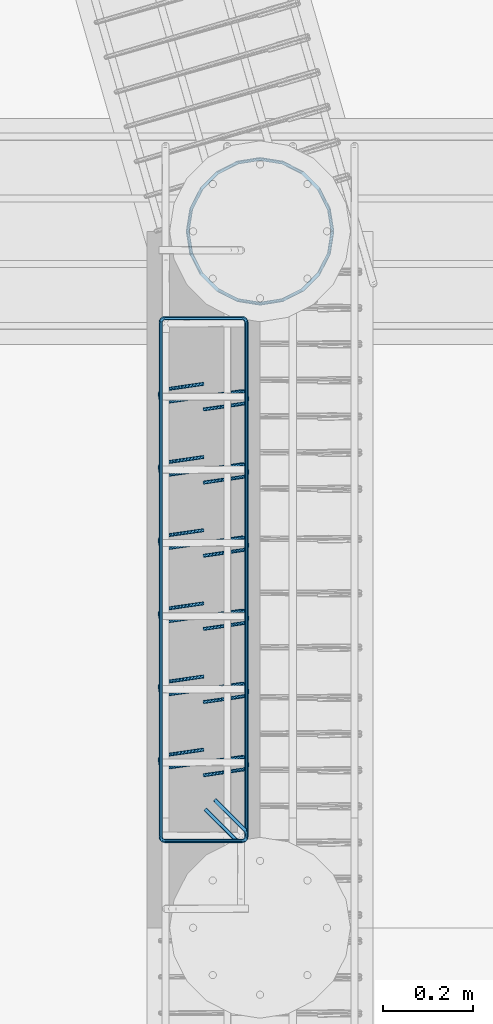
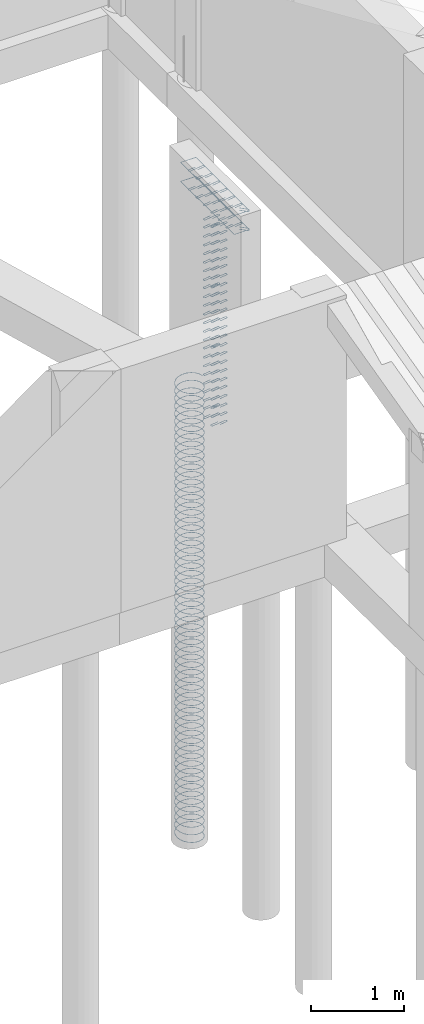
# One storey, part 6 of 13: 3 reinforcing bars.
"""IFC4 building model written with IfcOpenShell, lengths in metres."""

from ifc_helpers import new_model, entity, si_unit, origin_with_axes, place, context, project, spatial, source, transform, mapped, element, save


model = new_model("IFC4")

# Units and contexts
model_context = context("Model", 3, precision=1e-05, world=origin_with_axes())
ifc_project = project(units=[si_unit("LENGTHUNIT", "METRE"), si_unit("AREAUNIT", "SQUARE_METRE"), si_unit("VOLUMEUNIT", "CUBIC_METRE"), si_unit("MASSUNIT", "GRAM", prefix="KILO"), si_unit("TIMEUNIT", "SECOND"), si_unit("PLANEANGLEUNIT", "RADIAN"), si_unit("SOLIDANGLEUNIT", "STERADIAN"), si_unit("THERMODYNAMICTEMPERATUREUNIT", "DEGREE_CELSIUS")], contexts=[model_context])

# Site, building, storey
placement_1 = place(None, origin_with_axes())
site = spatial("IfcSite", under=ifc_project, at=placement_1, Name="Italia", CompositionType="ELEMENT")
building = spatial("IfcBuilding", under=site, at=placement_1, Name="Villa", CompositionType="ELEMENT")
storey = spatial("IfcBuildingStorey", under=building, at=placement_1, Name="Storey 0", CompositionType="ELEMENT", Elevation=0.0)

# Reinforcing bars
shared_shape_1 = source(origin_with_axes(), model_context, "Body", "AdvancedSweptSolid", [
    entity("IfcSweptDiskSolid", entity("IfcIndexedPolyCurve", entity("IfcCartesianPointList3D", [[14.8759, 4.71754, 0.021], [14.7869, 4.70466, 0.021], [14.7832, 4.70336, 0.021], [14.7803, 4.70075, 0.021], [14.7786, 4.69723, 0.021], [14.7784, 4.69333, 0.021], [14.7795, 4.68541, 0.021], [14.7808, 4.68174, 0.021], [14.7835, 4.67884, 0.021], [14.787, 4.67715, 0.021], [14.7909, 4.67695, 0.021], [14.9591, 4.70127, 0.021], [14.963, 4.70107, 0.021], [14.9665, 4.69939, 0.021], [14.9692, 4.69649, 0.021], [14.9705, 4.69281, 0.021], [14.9716, 4.68489, 0.021], [14.9714, 4.68099, 0.021], [14.9697, 4.67747, 0.021], [14.9668, 4.67486, 0.021], [14.9631, 4.67356, 0.021], [14.8741, 4.66068, 0.021]]), [entity("IfcLineIndex", [1, 2]), entity("IfcLineIndex", [2, 3]), entity("IfcLineIndex", [3, 4]), entity("IfcLineIndex", [4, 5]), entity("IfcLineIndex", [5, 6]), entity("IfcLineIndex", [6, 7]), entity("IfcLineIndex", [7, 8]), entity("IfcLineIndex", [8, 9]), entity("IfcLineIndex", [9, 10]), entity("IfcLineIndex", [10, 11]), entity("IfcLineIndex", [11, 12]), entity("IfcLineIndex", [12, 13]), entity("IfcLineIndex", [13, 14]), entity("IfcLineIndex", [14, 15]), entity("IfcLineIndex", [15, 16]), entity("IfcLineIndex", [16, 17]), entity("IfcLineIndex", [17, 18]), entity("IfcLineIndex", [18, 19]), entity("IfcLineIndex", [19, 20]), entity("IfcLineIndex", [20, 21]), entity("IfcLineIndex", [21, 22])], False), 0.004),
])
placement_2 = place(placement_1, origin_with_axes())
reinforcing_bar_1_placement = place(placement_2, origin_with_axes())
element("IfcReinforcingBar", 1, at=reinforcing_bar_1_placement, inside=storey, BarLength=0.428429, CrossSectionArea=5.0265e-05, NominalDiameter=0.008, context=model_context, shape_type="MappedRepresentation", body=[
    mapped(shared_shape_1, transform((0.0, 0.161778, 2.38304), x_axis=(1.0, 0.0, 0.0), y_axis=(0.0, 1.0, 0.0), z_axis=(0.0, 0.0, 1.0), scale=1.0)),
    mapped(shared_shape_1, transform((0.0, 0.0, 2.38304), x_axis=(1.0, 0.0, 0.0), y_axis=(0.0, 1.0, 0.0), z_axis=(0.0, 0.0, 1.0), scale=1.0)),
    mapped(shared_shape_1, transform((0.0, 0.0, 2.26957), x_axis=(1.0, 0.0, 0.0), y_axis=(0.0, 1.0, 0.0), z_axis=(0.0, 0.0, 1.0), scale=1.0)),
    mapped(shared_shape_1, transform((0.0, 0.161778, 2.15609), x_axis=(1.0, 0.0, 0.0), y_axis=(0.0, 1.0, 0.0), z_axis=(0.0, 0.0, 1.0), scale=1.0)),
    mapped(shared_shape_1, transform((0.0, 0.0, 2.15609), x_axis=(1.0, 0.0, 0.0), y_axis=(0.0, 1.0, 0.0), z_axis=(0.0, 0.0, 1.0), scale=1.0)),
    mapped(shared_shape_1, transform((0.0, 0.161778, 2.50452), x_axis=(1.0, 0.0, 0.0), y_axis=(0.0, 1.0, 0.0), z_axis=(0.0, 0.0, 1.0), scale=1.0)),
    mapped(shared_shape_1, transform((0.0, 0.161778, 1.92913), x_axis=(1.0, 0.0, 0.0), y_axis=(0.0, 1.0, 0.0), z_axis=(0.0, 0.0, 1.0), scale=1.0)),
    mapped(shared_shape_1, transform((0.0, 0.0, 1.92913), x_axis=(1.0, 0.0, 0.0), y_axis=(0.0, 1.0, 0.0), z_axis=(0.0, 0.0, 1.0), scale=1.0)),
    mapped(shared_shape_1, transform((0.0, 0.161778, 2.26957), x_axis=(1.0, 0.0, 0.0), y_axis=(0.0, 1.0, 0.0), z_axis=(0.0, 0.0, 1.0), scale=1.0)),
    mapped(shared_shape_1, transform((0.0, 0.0, 1.70217), x_axis=(1.0, 0.0, 0.0), y_axis=(0.0, 1.0, 0.0), z_axis=(0.0, 0.0, 1.0), scale=1.0)),
    mapped(shared_shape_1, transform((0.0, 0.161778, 2.04261), x_axis=(1.0, 0.0, 0.0), y_axis=(0.0, 1.0, 0.0), z_axis=(0.0, 0.0, 1.0), scale=1.0)),
    mapped(shared_shape_1, transform((0.0, 0.0, 2.05061), x_axis=(1.0, 0.0, 0.0), y_axis=(0.0, 1.0, 0.0), z_axis=(0.0, 0.0, 1.0), scale=1.0)),
    mapped(shared_shape_1, transform((0.0, -0.323555, 3.046), x_axis=(1.0, 0.0, 0.0), y_axis=(0.0, 1.0, 0.0), z_axis=(0.0, 0.0, 1.0), scale=1.0)),
    mapped(shared_shape_1, transform((0.0, 0.0, 1.81565), x_axis=(1.0, 0.0, 0.0), y_axis=(0.0, 1.0, 0.0), z_axis=(0.0, 0.0, 1.0), scale=1.0)),
    mapped(shared_shape_1, transform((0.0, 0.161778, 1.81565), x_axis=(1.0, 0.0, 0.0), y_axis=(0.0, 1.0, 0.0), z_axis=(0.0, 0.0, 1.0), scale=1.0)),
    mapped(shared_shape_1, transform((0.0, 0.161778, 1.71017), x_axis=(1.0, 0.0, 0.0), y_axis=(0.0, 1.0, 0.0), z_axis=(0.0, 0.0, 1.0), scale=1.0)),
    mapped(shared_shape_1, transform((0.0, -0.161777, 3.046), x_axis=(1.0, 0.0, 0.0), y_axis=(0.0, 1.0, 0.0), z_axis=(0.0, 0.0, 1.0), scale=1.0)),
    mapped(shared_shape_1, transform((0.0, 0.323556, 3.046), x_axis=(1.0, 0.0, 0.0), y_axis=(0.0, 1.0, 0.0), z_axis=(0.0, 0.0, 1.0), scale=1.0)),
    mapped(shared_shape_1, transform((0.0, 0.0, 3.046), x_axis=(1.0, 0.0, 0.0), y_axis=(0.0, 1.0, 0.0), z_axis=(0.0, 0.0, 1.0), scale=1.0)),
    mapped(shared_shape_1, transform((0.0, 0.161778, 3.046), x_axis=(1.0, 0.0, 0.0), y_axis=(0.0, 1.0, 0.0), z_axis=(0.0, 0.0, 1.0), scale=1.0)),
    mapped(shared_shape_1, transform((0.0, 0.485333, 3.054), x_axis=(1.0, 0.0, 0.0), y_axis=(0.0, 1.0, 0.0), z_axis=(0.0, 0.0, 1.0), scale=1.0)),
    mapped(shared_shape_1, transform((0.0, -0.323555, 2.796), x_axis=(1.0, 0.0, 0.0), y_axis=(0.0, 1.0, 0.0), z_axis=(0.0, 0.0, 1.0), scale=1.0)),
    mapped(shared_shape_1, transform((0.0, 0.323556, 2.796), x_axis=(1.0, 0.0, 0.0), y_axis=(0.0, 1.0, 0.0), z_axis=(0.0, 0.0, 1.0), scale=1.0)),
    mapped(shared_shape_1, transform((0.0, 0.0, 2.796), x_axis=(1.0, 0.0, 0.0), y_axis=(0.0, 1.0, 0.0), z_axis=(0.0, 0.0, 1.0), scale=1.0)),
    mapped(shared_shape_1, transform((0.0, 0.485333, 2.804), x_axis=(1.0, 0.0, 0.0), y_axis=(0.0, 1.0, 0.0), z_axis=(0.0, 0.0, 1.0), scale=1.0)),
    mapped(shared_shape_1, transform((0.0, 0.0, 2.61), x_axis=(1.0, 0.0, 0.0), y_axis=(0.0, 1.0, 0.0), z_axis=(0.0, 0.0, 1.0), scale=1.0)),
    mapped(shared_shape_1, transform((0.0, -0.161777, 2.796), x_axis=(1.0, 0.0, 0.0), y_axis=(0.0, 1.0, 0.0), z_axis=(0.0, 0.0, 1.0), scale=1.0)),
    mapped(shared_shape_1, transform((0.0, 0.0, 0.794348), x_axis=(1.0, 0.0, 0.0), y_axis=(0.0, 1.0, 0.0), z_axis=(0.0, 0.0, 1.0), scale=1.0)),
    mapped(shared_shape_1, transform((0.0, 0.0, 0.68087), x_axis=(1.0, 0.0, 0.0), y_axis=(0.0, 1.0, 0.0), z_axis=(0.0, 0.0, 1.0), scale=1.0)),
    mapped(shared_shape_1, transform((0.0, 0.161778, 2.796), x_axis=(1.0, 0.0, 0.0), y_axis=(0.0, 1.0, 0.0), z_axis=(0.0, 0.0, 1.0), scale=1.0)),
    mapped(shared_shape_1, transform((0.0, 0.0, 0.567391), x_axis=(1.0, 0.0, 0.0), y_axis=(0.0, 1.0, 0.0), z_axis=(0.0, 0.0, 1.0), scale=1.0)),
    mapped(shared_shape_1, transform((0.0, 0.161778, 2.61), x_axis=(1.0, 0.0, 0.0), y_axis=(0.0, 1.0, 0.0), z_axis=(0.0, 0.0, 1.0), scale=1.0)),
    mapped(shared_shape_1, transform((0.0, 0.0, 2.49652), x_axis=(1.0, 0.0, 0.0), y_axis=(0.0, 1.0, 0.0), z_axis=(0.0, 0.0, 1.0), scale=1.0)),
    mapped(shared_shape_1, transform((0.0, 0.0, 0.340435), x_axis=(1.0, 0.0, 0.0), y_axis=(0.0, 1.0, 0.0), z_axis=(0.0, 0.0, 1.0), scale=1.0)),
    mapped(shared_shape_1, transform((0.0, 0.161778, 0.68087), x_axis=(1.0, 0.0, 0.0), y_axis=(0.0, 1.0, 0.0), z_axis=(0.0, 0.0, 1.0), scale=1.0)),
    mapped(shared_shape_1, transform((0.0, 0.161778, 0.567391), x_axis=(1.0, 0.0, 0.0), y_axis=(0.0, 1.0, 0.0), z_axis=(0.0, 0.0, 1.0), scale=1.0)),
    mapped(shared_shape_1, transform((0.0, 0.161778, 0.453913), x_axis=(1.0, 0.0, 0.0), y_axis=(0.0, 1.0, 0.0), z_axis=(0.0, 0.0, 1.0), scale=1.0)),
    mapped(shared_shape_1, transform((0.0, 0.0, 0.461913), x_axis=(1.0, 0.0, 0.0), y_axis=(0.0, 1.0, 0.0), z_axis=(0.0, 0.0, 1.0), scale=1.0)),
    mapped(shared_shape_1, transform((0.0, 0.161778, 0.340435), x_axis=(1.0, 0.0, 0.0), y_axis=(0.0, 1.0, 0.0), z_axis=(0.0, 0.0, 1.0), scale=1.0)),
    mapped(shared_shape_1, transform((0.0, 0.0, 0.226957), x_axis=(1.0, 0.0, 0.0), y_axis=(0.0, 1.0, 0.0), z_axis=(0.0, 0.0, 1.0), scale=1.0)),
    mapped(shared_shape_1, transform((0.0, 0.161778, 0.226957), x_axis=(1.0, 0.0, 0.0), y_axis=(0.0, 1.0, 0.0), z_axis=(0.0, 0.0, 1.0), scale=1.0)),
    mapped(shared_shape_1, transform((0.0, 0.0, 0.113478), x_axis=(1.0, 0.0, 0.0), y_axis=(0.0, 1.0, 0.0), z_axis=(0.0, 0.0, 1.0), scale=1.0)),
    mapped(shared_shape_1, transform((0.0, 0.161778, 0.0), x_axis=(1.0, 0.0, 0.0), y_axis=(0.0, 1.0, 0.0), z_axis=(0.0, 0.0, 1.0), scale=1.0)),
    mapped(shared_shape_1, transform((0.0, 0.0, 0.0), x_axis=(1.0, 0.0, 0.0), y_axis=(0.0, 1.0, 0.0), z_axis=(0.0, 0.0, 1.0), scale=1.0)),
    mapped(shared_shape_1, transform((0.0, 0.161778, 1.5887), x_axis=(1.0, 0.0, 0.0), y_axis=(0.0, 1.0, 0.0), z_axis=(0.0, 0.0, 1.0), scale=1.0)),
    mapped(shared_shape_1, transform((0.0, 0.0, 1.47522), x_axis=(1.0, 0.0, 0.0), y_axis=(0.0, 1.0, 0.0), z_axis=(0.0, 0.0, 1.0), scale=1.0)),
    mapped(shared_shape_1, transform((0.0, 0.161778, 1.47522), x_axis=(1.0, 0.0, 0.0), y_axis=(0.0, 1.0, 0.0), z_axis=(0.0, 0.0, 1.0), scale=1.0)),
    mapped(shared_shape_1, transform((0.0, 0.161778, 0.121478), x_axis=(1.0, 0.0, 0.0), y_axis=(0.0, 1.0, 0.0), z_axis=(0.0, 0.0, 1.0), scale=1.0)),
    mapped(shared_shape_1, transform((0.0, 0.161778, 1.24826), x_axis=(1.0, 0.0, 0.0), y_axis=(0.0, 1.0, 0.0), z_axis=(0.0, 0.0, 1.0), scale=1.0)),
    mapped(shared_shape_1, transform((0.0, 0.0, 1.24826), x_axis=(1.0, 0.0, 0.0), y_axis=(0.0, 1.0, 0.0), z_axis=(0.0, 0.0, 1.0), scale=1.0)),
    mapped(shared_shape_1, transform((0.0, 0.0, 1.5887), x_axis=(1.0, 0.0, 0.0), y_axis=(0.0, 1.0, 0.0), z_axis=(0.0, 0.0, 1.0), scale=1.0)),
    mapped(shared_shape_1, transform((0.0, 0.0, 1.0213), x_axis=(1.0, 0.0, 0.0), y_axis=(0.0, 1.0, 0.0), z_axis=(0.0, 0.0, 1.0), scale=1.0)),
    mapped(shared_shape_1, transform((0.0, 0.161778, 1.36174), x_axis=(1.0, 0.0, 0.0), y_axis=(0.0, 1.0, 0.0), z_axis=(0.0, 0.0, 1.0), scale=1.0)),
    mapped(shared_shape_1, transform((0.0, 0.0, 1.36174), x_axis=(1.0, 0.0, 0.0), y_axis=(0.0, 1.0, 0.0), z_axis=(0.0, 0.0, 1.0), scale=1.0)),
    mapped(shared_shape_1, transform((0.0, 0.161778, 0.794348), x_axis=(1.0, 0.0, 0.0), y_axis=(0.0, 1.0, 0.0), z_axis=(0.0, 0.0, 1.0), scale=1.0)),
    mapped(shared_shape_1, transform((0.0, 0.161778, 1.13478), x_axis=(1.0, 0.0, 0.0), y_axis=(0.0, 1.0, 0.0), z_axis=(0.0, 0.0, 1.0), scale=1.0)),
    mapped(shared_shape_1, transform((0.0, 0.0, 1.13478), x_axis=(1.0, 0.0, 0.0), y_axis=(0.0, 1.0, 0.0), z_axis=(0.0, 0.0, 1.0), scale=1.0)),
    mapped(shared_shape_1, transform((0.0, 0.161778, 1.0213), x_axis=(1.0, 0.0, 0.0), y_axis=(0.0, 1.0, 0.0), z_axis=(0.0, 0.0, 1.0), scale=1.0)),
    mapped(shared_shape_1, transform((0.0, 0.0, 0.907826), x_axis=(1.0, 0.0, 0.0), y_axis=(0.0, 1.0, 0.0), z_axis=(0.0, 0.0, 1.0), scale=1.0)),
    mapped(shared_shape_1, transform((0.0, 0.161778, 0.915826), x_axis=(1.0, 0.0, 0.0), y_axis=(0.0, 1.0, 0.0), z_axis=(0.0, 0.0, 1.0), scale=1.0)),
])
shared_shape_2 = source(origin_with_axes(), model_context, "Body", "AdvancedSweptSolid", [
    entity("IfcSweptDiskSolid", entity("IfcIndexedPolyCurve", entity("IfcCartesianPointList3D", [[14.8993, 4.28349, 2.837], [14.9671, 4.21571, 2.83672], [14.97, 4.20864, 2.83669], [14.97, 4.20178, 2.83667], [14.9692, 4.19795, 2.83666], [14.9671, 4.19471, 2.83665], [14.9638, 4.19254, 2.83664], [14.96, 4.19178, 2.83663], [14.79, 4.19178, 2.83612], [14.7862, 4.19254, 2.83611], [14.7829, 4.19471, 2.8361], [14.7808, 4.19795, 2.83609], [14.78, 4.20178, 2.83608], [14.78, 5.33822, 2.83272], [14.7808, 5.34205, 2.83271], [14.7829, 5.34529, 2.83269], [14.7862, 5.34746, 2.83268], [14.79, 5.34822, 2.83267], [14.96, 5.34822, 2.83217], [14.9638, 5.34746, 2.83216], [14.9671, 5.34529, 2.83214], [14.9692, 5.34205, 2.83213], [14.97, 5.33822, 2.83212], [14.97, 4.20178, 2.82876], [14.9692, 4.19795, 2.82875], [14.9671, 4.19471, 2.82874], [14.9638, 4.19254, 2.82873], [14.96, 4.19178, 2.82871], [14.9531, 4.19178, 2.82869], [14.9461, 4.19471, 2.82867], [14.8783, 4.26249, 2.82839]]), [entity("IfcLineIndex", [1, 2]), entity("IfcLineIndex", [2, 3]), entity("IfcLineIndex", [3, 4]), entity("IfcLineIndex", [4, 5]), entity("IfcLineIndex", [5, 6]), entity("IfcLineIndex", [6, 7]), entity("IfcLineIndex", [7, 8]), entity("IfcLineIndex", [8, 9]), entity("IfcLineIndex", [9, 10]), entity("IfcLineIndex", [10, 11]), entity("IfcLineIndex", [11, 12]), entity("IfcLineIndex", [12, 13]), entity("IfcLineIndex", [13, 14]), entity("IfcLineIndex", [14, 15]), entity("IfcLineIndex", [15, 16]), entity("IfcLineIndex", [16, 17]), entity("IfcLineIndex", [17, 18]), entity("IfcLineIndex", [18, 19]), entity("IfcLineIndex", [19, 20]), entity("IfcLineIndex", [20, 21]), entity("IfcLineIndex", [21, 22]), entity("IfcLineIndex", [22, 23]), entity("IfcLineIndex", [23, 24]), entity("IfcLineIndex", [24, 25]), entity("IfcLineIndex", [25, 26]), entity("IfcLineIndex", [26, 27]), entity("IfcLineIndex", [27, 28]), entity("IfcLineIndex", [28, 29]), entity("IfcLineIndex", [29, 30]), entity("IfcLineIndex", [30, 31])], False), 0.004),
])
reinforcing_bar_2_placement = place(placement_2, origin_with_axes())
element("IfcReinforcingBar", 2, at=reinforcing_bar_2_placement, inside=storey, BarLength=2.91168, CrossSectionArea=5.0265e-05, NominalDiameter=0.008, context=model_context, shape_type="MappedRepresentation", body=[
    mapped(shared_shape_2, transform((0.0, 0.0, 0.25), x_axis=(1.0, 0.0, 0.0), y_axis=(0.0, 1.0, 0.0), z_axis=(0.0, 0.0, 1.0), scale=1.0)),
    mapped(shared_shape_2, transform((0.0, 0.0, 0.0), x_axis=(1.0, 0.0, 0.0), y_axis=(0.0, 1.0, 0.0), z_axis=(0.0, 0.0, 1.0), scale=1.0)),
])
shared_shape_3 = source(origin_with_axes(), model_context, "Body", "AdvancedSweptSolid", [
    entity("IfcSweptDiskSolid", entity("IfcIndexedPolyCurve", entity("IfcCartesianPointList3D", [[15.16, 5.54, -5.97], [15.1522, 5.49056, -5.965], [15.1294, 5.44595, -5.96], [15.094, 5.41056, -5.955], [15.0494, 5.38783, -5.95], [15.0, 5.38, -5.945], [14.9506, 5.38783, -5.94], [14.906, 5.41056, -5.935], [14.8706, 5.44595, -5.93], [14.8478, 5.49056, -5.925], [14.84, 5.54, -5.92], [14.8478, 5.58944, -5.915], [14.8706, 5.63405, -5.91], [14.906, 5.66944, -5.905], [14.9506, 5.69217, -5.9], [15.0, 5.7, -5.895], [15.0494, 5.69217, -5.89], [15.094, 5.66944, -5.885], [15.1294, 5.63405, -5.88], [15.1522, 5.58944, -5.875], [15.16, 5.54, -5.87]]), [entity("IfcLineIndex", [1, 2]), entity("IfcLineIndex", [2, 3]), entity("IfcLineIndex", [3, 4]), entity("IfcLineIndex", [4, 5]), entity("IfcLineIndex", [5, 6]), entity("IfcLineIndex", [6, 7]), entity("IfcLineIndex", [7, 8]), entity("IfcLineIndex", [8, 9]), entity("IfcLineIndex", [9, 10]), entity("IfcLineIndex", [10, 11]), entity("IfcLineIndex", [11, 12]), entity("IfcLineIndex", [12, 13]), entity("IfcLineIndex", [13, 14]), entity("IfcLineIndex", [14, 15]), entity("IfcLineIndex", [15, 16]), entity("IfcLineIndex", [16, 17]), entity("IfcLineIndex", [17, 18]), entity("IfcLineIndex", [18, 19]), entity("IfcLineIndex", [19, 20]), entity("IfcLineIndex", [20, 21])], False), 0.004),
])
reinforcing_bar_3_placement = place(placement_2, origin_with_axes())
element("IfcReinforcingBar", 3, at=reinforcing_bar_3_placement, inside=storey, BarLength=1.00616, CrossSectionArea=5.0265e-05, NominalDiameter=0.008, context=model_context, shape_type="MappedRepresentation", body=[
    mapped(shared_shape_3, transform((0.0, 0.0, 3.6), x_axis=(1.0, 0.0, 0.0), y_axis=(0.0, 1.0, 0.0), z_axis=(0.0, 0.0, 1.0), scale=1.0)),
    mapped(shared_shape_3, transform((0.0, 0.0, 3.5), x_axis=(1.0, 0.0, 0.0), y_axis=(0.0, 1.0, 0.0), z_axis=(0.0, 0.0, 1.0), scale=1.0)),
    mapped(shared_shape_3, transform((0.0, 0.0, 3.4), x_axis=(1.0, 0.0, 0.0), y_axis=(0.0, 1.0, 0.0), z_axis=(0.0, 0.0, 1.0), scale=1.0)),
    mapped(shared_shape_3, transform((0.0, 0.0, 3.9), x_axis=(1.0, 0.0, 0.0), y_axis=(0.0, 1.0, 0.0), z_axis=(0.0, 0.0, 1.0), scale=1.0)),
    mapped(shared_shape_3, transform((0.0, 0.0, 3.8), x_axis=(1.0, 0.0, 0.0), y_axis=(0.0, 1.0, 0.0), z_axis=(0.0, 0.0, 1.0), scale=1.0)),
    mapped(shared_shape_3, transform((2.28882e-05, -1.14441e-05, 4.30004), x_axis=(1.0, 0.0, 0.0), y_axis=(0.0, 1.0, 0.0), z_axis=(0.0, 0.0, 1.0), scale=1.0)),
    mapped(shared_shape_3, transform((0.0, 0.0, 3.1), x_axis=(1.0, 0.0, 0.0), y_axis=(0.0, 1.0, 0.0), z_axis=(0.0, 0.0, 1.0), scale=1.0)),
    mapped(shared_shape_3, transform((2.28882e-05, -1.14441e-05, 4.20004), x_axis=(1.0, 0.0, 0.0), y_axis=(0.0, 1.0, 0.0), z_axis=(0.0, 0.0, 1.0), scale=1.0)),
    mapped(shared_shape_3, transform((2.28882e-05, -1.14441e-05, 5.00004), x_axis=(1.0, 0.0, 0.0), y_axis=(0.0, 1.0, 0.0), z_axis=(0.0, 0.0, 1.0), scale=1.0)),
    mapped(shared_shape_3, transform((0.0, 0.0, 3.7), x_axis=(1.0, 0.0, 0.0), y_axis=(0.0, 1.0, 0.0), z_axis=(0.0, 0.0, 1.0), scale=1.0)),
    mapped(shared_shape_3, transform((2.28882e-05, -1.14441e-05, 4.40004), x_axis=(1.0, 0.0, 0.0), y_axis=(0.0, 1.0, 0.0), z_axis=(0.0, 0.0, 1.0), scale=1.0)),
    mapped(shared_shape_3, transform((0.0, 0.0, 3.0), x_axis=(1.0, 0.0, 0.0), y_axis=(0.0, 1.0, 0.0), z_axis=(0.0, 0.0, 1.0), scale=1.0)),
    mapped(shared_shape_3, transform((2.28882e-05, -1.14441e-05, 4.10004), x_axis=(1.0, 0.0, 0.0), y_axis=(0.0, 1.0, 0.0), z_axis=(0.0, 0.0, 1.0), scale=1.0)),
    mapped(shared_shape_3, transform((0.0, 0.0, 3.3), x_axis=(1.0, 0.0, 0.0), y_axis=(0.0, 1.0, 0.0), z_axis=(0.0, 0.0, 1.0), scale=1.0)),
    mapped(shared_shape_3, transform((2.28882e-05, -1.14441e-05, 4.90004), x_axis=(1.0, 0.0, 0.0), y_axis=(0.0, 1.0, 0.0), z_axis=(0.0, 0.0, 1.0), scale=1.0)),
    mapped(shared_shape_3, transform((2.28882e-05, -1.14441e-05, 5.20004), x_axis=(1.0, 0.0, 0.0), y_axis=(0.0, 1.0, 0.0), z_axis=(0.0, 0.0, 1.0), scale=1.0)),
    mapped(shared_shape_3, transform((2.28882e-05, -1.04904e-05, 5.90004), x_axis=(1.0, 0.0, 0.0), y_axis=(0.0, 1.0, 0.0), z_axis=(0.0, 0.0, 1.0), scale=1.0)),
    mapped(shared_shape_3, transform((2.28882e-05, -1.14441e-05, 4.50004), x_axis=(1.0, 0.0, 0.0), y_axis=(0.0, 1.0, 0.0), z_axis=(0.0, 0.0, 1.0), scale=1.0)),
    mapped(shared_shape_3, transform((2.28882e-05, -1.14441e-05, 4.00004), x_axis=(1.0, 0.0, 0.0), y_axis=(0.0, 1.0, 0.0), z_axis=(0.0, 0.0, 1.0), scale=1.0)),
    mapped(shared_shape_3, transform((0.0, 0.0, 3.2), x_axis=(1.0, 0.0, 0.0), y_axis=(0.0, 1.0, 0.0), z_axis=(0.0, 0.0, 1.0), scale=1.0)),
    mapped(shared_shape_3, transform((2.28882e-05, -1.14441e-05, 4.80004), x_axis=(1.0, 0.0, 0.0), y_axis=(0.0, 1.0, 0.0), z_axis=(0.0, 0.0, 1.0), scale=1.0)),
    mapped(shared_shape_3, transform((2.28882e-05, -1.14441e-05, 4.70004), x_axis=(1.0, 0.0, 0.0), y_axis=(0.0, 1.0, 0.0), z_axis=(0.0, 0.0, 1.0), scale=1.0)),
    mapped(shared_shape_3, transform((2.28882e-05, -1.14441e-05, 5.10004), x_axis=(1.0, 0.0, 0.0), y_axis=(0.0, 1.0, 0.0), z_axis=(0.0, 0.0, 1.0), scale=1.0)),
    mapped(shared_shape_3, transform((0.0, 0.0, 1.4), x_axis=(1.0, 0.0, 0.0), y_axis=(0.0, 1.0, 0.0), z_axis=(0.0, 0.0, 1.0), scale=1.0)),
    mapped(shared_shape_3, transform((0.0, 0.0, 1.3), x_axis=(1.0, 0.0, 0.0), y_axis=(0.0, 1.0, 0.0), z_axis=(0.0, 0.0, 1.0), scale=1.0)),
    mapped(shared_shape_3, transform((2.28882e-05, -1.14441e-05, 5.40004), x_axis=(1.0, 0.0, 0.0), y_axis=(0.0, 1.0, 0.0), z_axis=(0.0, 0.0, 1.0), scale=1.0)),
    mapped(shared_shape_3, transform((0.0, 0.0, 0.999999), x_axis=(1.0, 0.0, 0.0), y_axis=(0.0, 1.0, 0.0), z_axis=(0.0, 0.0, 1.0), scale=1.0)),
    mapped(shared_shape_3, transform((2.28882e-05, -1.14441e-05, 4.60004), x_axis=(1.0, 0.0, 0.0), y_axis=(0.0, 1.0, 0.0), z_axis=(0.0, 0.0, 1.0), scale=1.0)),
    mapped(shared_shape_3, transform((2.28882e-05, -1.14441e-05, 5.30004), x_axis=(1.0, 0.0, 0.0), y_axis=(0.0, 1.0, 0.0), z_axis=(0.0, 0.0, 1.0), scale=1.0)),
    mapped(shared_shape_3, transform((2.47955e-05, -1.04904e-05, 5.60005), x_axis=(1.0, 0.0, 0.0), y_axis=(0.0, 1.0, 0.0), z_axis=(0.0, 0.0, 1.0), scale=1.0)),
    mapped(shared_shape_3, transform((2.47955e-05, -1.04904e-05, 5.70005), x_axis=(1.0, 0.0, 0.0), y_axis=(0.0, 1.0, 0.0), z_axis=(0.0, 0.0, 1.0), scale=1.0)),
    mapped(shared_shape_3, transform((2.47955e-05, -1.04904e-05, 5.50005), x_axis=(1.0, 0.0, 0.0), y_axis=(0.0, 1.0, 0.0), z_axis=(0.0, 0.0, 1.0), scale=1.0)),
    mapped(shared_shape_3, transform((2.38419e-05, -1.09673e-05, 5.80005), x_axis=(1.0, 0.0, 0.0), y_axis=(0.0, 1.0, 0.0), z_axis=(0.0, 0.0, 1.0), scale=1.0)),
    mapped(shared_shape_3, transform((0.0, 0.0, 0.599999), x_axis=(1.0, 0.0, 0.0), y_axis=(0.0, 1.0, 0.0), z_axis=(0.0, 0.0, 1.0), scale=1.0)),
    mapped(shared_shape_3, transform((0.0, 0.0, 1.2), x_axis=(1.0, 0.0, 0.0), y_axis=(0.0, 1.0, 0.0), z_axis=(0.0, 0.0, 1.0), scale=1.0)),
    mapped(shared_shape_3, transform((0.0, 0.0, 1.1), x_axis=(1.0, 0.0, 0.0), y_axis=(0.0, 1.0, 0.0), z_axis=(0.0, 0.0, 1.0), scale=1.0)),
    mapped(shared_shape_3, transform((0.0, 0.0, 0.899999), x_axis=(1.0, 0.0, 0.0), y_axis=(0.0, 1.0, 0.0), z_axis=(0.0, 0.0, 1.0), scale=1.0)),
    mapped(shared_shape_3, transform((0.0, 0.0, 0.799999), x_axis=(1.0, 0.0, 0.0), y_axis=(0.0, 1.0, 0.0), z_axis=(0.0, 0.0, 1.0), scale=1.0)),
    mapped(shared_shape_3, transform((0.0, 0.0, 0.699999), x_axis=(1.0, 0.0, 0.0), y_axis=(0.0, 1.0, 0.0), z_axis=(0.0, 0.0, 1.0), scale=1.0)),
    mapped(shared_shape_3, transform((0.0, 0.0, 0.499999), x_axis=(1.0, 0.0, 0.0), y_axis=(0.0, 1.0, 0.0), z_axis=(0.0, 0.0, 1.0), scale=1.0)),
    mapped(shared_shape_3, transform((0.0, 0.0, 0.399999), x_axis=(1.0, 0.0, 0.0), y_axis=(0.0, 1.0, 0.0), z_axis=(0.0, 0.0, 1.0), scale=1.0)),
    mapped(shared_shape_3, transform((0.0, 0.0, 0.299999), x_axis=(1.0, 0.0, 0.0), y_axis=(0.0, 1.0, 0.0), z_axis=(0.0, 0.0, 1.0), scale=1.0)),
    mapped(shared_shape_3, transform((0.0, 0.0, 0.0999994), x_axis=(1.0, 0.0, 0.0), y_axis=(0.0, 1.0, 0.0), z_axis=(0.0, 0.0, 1.0), scale=1.0)),
    mapped(shared_shape_3, transform((0.0, 0.0, 0.0), x_axis=(1.0, 0.0, 0.0), y_axis=(0.0, 1.0, 0.0), z_axis=(0.0, 0.0, 1.0), scale=1.0)),
    mapped(shared_shape_3, transform((0.0, 0.0, 2.9), x_axis=(1.0, 0.0, 0.0), y_axis=(0.0, 1.0, 0.0), z_axis=(0.0, 0.0, 1.0), scale=1.0)),
    mapped(shared_shape_3, transform((0.0, 0.0, 2.7), x_axis=(1.0, 0.0, 0.0), y_axis=(0.0, 1.0, 0.0), z_axis=(0.0, 0.0, 1.0), scale=1.0)),
    mapped(shared_shape_3, transform((0.0, 0.0, 2.6), x_axis=(1.0, 0.0, 0.0), y_axis=(0.0, 1.0, 0.0), z_axis=(0.0, 0.0, 1.0), scale=1.0)),
    mapped(shared_shape_3, transform((0.0, 0.0, 0.199999), x_axis=(1.0, 0.0, 0.0), y_axis=(0.0, 1.0, 0.0), z_axis=(0.0, 0.0, 1.0), scale=1.0)),
    mapped(shared_shape_3, transform((0.0, 0.0, 2.3), x_axis=(1.0, 0.0, 0.0), y_axis=(0.0, 1.0, 0.0), z_axis=(0.0, 0.0, 1.0), scale=1.0)),
    mapped(shared_shape_3, transform((0.0, 0.0, 2.2), x_axis=(1.0, 0.0, 0.0), y_axis=(0.0, 1.0, 0.0), z_axis=(0.0, 0.0, 1.0), scale=1.0)),
    mapped(shared_shape_3, transform((0.0, 0.0, 2.8), x_axis=(1.0, 0.0, 0.0), y_axis=(0.0, 1.0, 0.0), z_axis=(0.0, 0.0, 1.0), scale=1.0)),
    mapped(shared_shape_3, transform((0.0, 0.0, 1.9), x_axis=(1.0, 0.0, 0.0), y_axis=(0.0, 1.0, 0.0), z_axis=(0.0, 0.0, 1.0), scale=1.0)),
    mapped(shared_shape_3, transform((0.0, 0.0, 2.5), x_axis=(1.0, 0.0, 0.0), y_axis=(0.0, 1.0, 0.0), z_axis=(0.0, 0.0, 1.0), scale=1.0)),
    mapped(shared_shape_3, transform((0.0, 0.0, 2.4), x_axis=(1.0, 0.0, 0.0), y_axis=(0.0, 1.0, 0.0), z_axis=(0.0, 0.0, 1.0), scale=1.0)),
    mapped(shared_shape_3, transform((0.0, 0.0, 1.5), x_axis=(1.0, 0.0, 0.0), y_axis=(0.0, 1.0, 0.0), z_axis=(0.0, 0.0, 1.0), scale=1.0)),
    mapped(shared_shape_3, transform((0.0, 0.0, 2.1), x_axis=(1.0, 0.0, 0.0), y_axis=(0.0, 1.0, 0.0), z_axis=(0.0, 0.0, 1.0), scale=1.0)),
    mapped(shared_shape_3, transform((0.0, 0.0, 2.0), x_axis=(1.0, 0.0, 0.0), y_axis=(0.0, 1.0, 0.0), z_axis=(0.0, 0.0, 1.0), scale=1.0)),
    mapped(shared_shape_3, transform((0.0, 0.0, 1.8), x_axis=(1.0, 0.0, 0.0), y_axis=(0.0, 1.0, 0.0), z_axis=(0.0, 0.0, 1.0), scale=1.0)),
    mapped(shared_shape_3, transform((0.0, 0.0, 1.7), x_axis=(1.0, 0.0, 0.0), y_axis=(0.0, 1.0, 0.0), z_axis=(0.0, 0.0, 1.0), scale=1.0)),
    mapped(shared_shape_3, transform((0.0, 0.0, 1.6), x_axis=(1.0, 0.0, 0.0), y_axis=(0.0, 1.0, 0.0), z_axis=(0.0, 0.0, 1.0), scale=1.0)),
])

save(model, "model.ifc")
